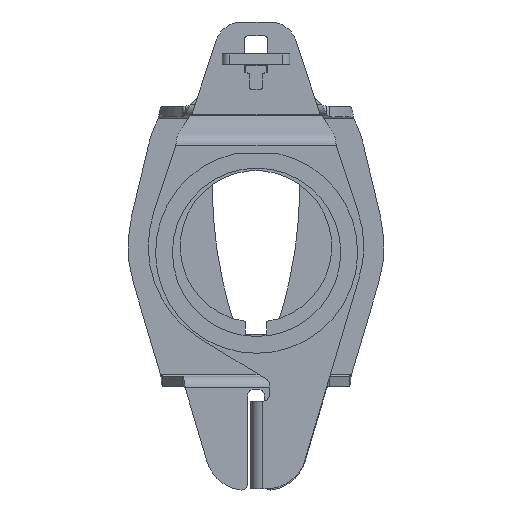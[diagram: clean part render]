
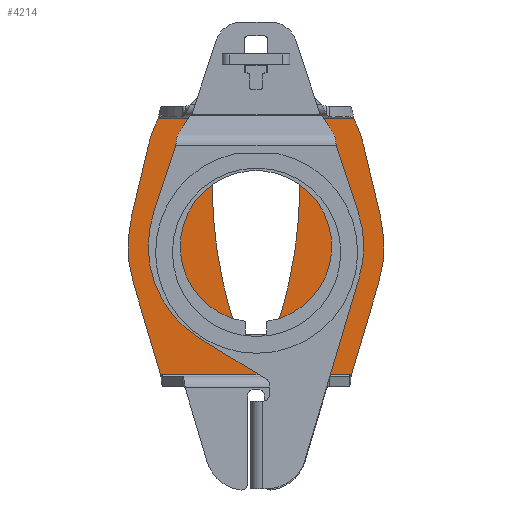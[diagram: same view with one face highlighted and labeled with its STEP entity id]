
A CAD part, front view. The second image highlights one B-rep face of the part: STEP entity #4214.
In plain terms, the highlighted planar face has unit normal (0, -1, 0) as drawn and (0, 1, 0) by its records, which use the part's own axes.
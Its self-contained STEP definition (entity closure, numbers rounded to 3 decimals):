
#2501=DIRECTION('',(1.,0.,0.));
#2502=VECTOR('',#2501,29.067);
#2503=CARTESIAN_POINT('',(-14.534,1.5,-19.));
#2504=LINE('',#2503,#2502);
#2505=CARTESIAN_POINT('',(-3.461,1.5,-10.271));
#2506=DIRECTION('',(0.,-1.,0.));
#2507=DIRECTION('',(0.9,0.,-0.436));
#2508=AXIS2_PLACEMENT_3D('',#2505,#2506,#2507);
#2510=DIRECTION('',(0.231,0.,0.973));
#2511=VECTOR('',#2510,10.793);
#2512=CARTESIAN_POINT('',(16.,1.5,-14.882));
#2513=LINE('',#2512,#2511);
#2514=CARTESIAN_POINT('',(0.,1.5,0.));
#2515=DIRECTION('',(0.,-1.,0.));
#2516=DIRECTION('',(0.973,0.,-0.231));
#2517=AXIS2_PLACEMENT_3D('',#2514,#2515,#2516);
#2519=DIRECTION('',(-0.285,0.,0.959));
#2520=VECTOR('',#2519,14.174);
#2521=CARTESIAN_POINT('',(18.212,1.5,5.413));
#2522=LINE('',#2521,#2520);
#2523=DIRECTION('',(1.,0.,0.));
#2524=VECTOR('',#2523,28.348);
#2525=CARTESIAN_POINT('',(-14.174,1.5,19.));
#2526=LINE('',#2525,#2524);
#2527=DIRECTION('',(-0.285,0.,-0.959));
#2528=VECTOR('',#2527,14.174);
#2529=CARTESIAN_POINT('',(-14.174,1.5,19.));
#2530=LINE('',#2529,#2528);
#2531=CARTESIAN_POINT('',(0.,1.5,0.));
#2532=DIRECTION('',(0.,-1.,0.));
#2533=DIRECTION('',(-0.959,0.,0.285));
#2534=AXIS2_PLACEMENT_3D('',#2531,#2532,#2533);
#2536=DIRECTION('',(0.231,0.,-0.973));
#2537=VECTOR('',#2536,10.793);
#2538=CARTESIAN_POINT('',(-18.488,1.5,-4.38));
#2539=LINE('',#2538,#2537);
#2540=CARTESIAN_POINT('',(3.461,1.5,-10.271));
#2541=DIRECTION('',(0.,-1.,0.));
#2542=DIRECTION('',(-0.973,0.,-0.231));
#2543=AXIS2_PLACEMENT_3D('',#2540,#2541,#2542);
#2545=DIRECTION('',(0.,0.,1.));
#2546=VECTOR('',#2545,4.262);
#2547=CARTESIAN_POINT('',(6.5,1.5,-13.354));
#2548=LINE('',#2547,#2546);
#2549=CARTESIAN_POINT('',(0.,1.5,-0.371));
#2550=DIRECTION('',(0.,-1.,0.));
#2551=DIRECTION('',(-0.39,0.,-0.921));
#2552=AXIS2_PLACEMENT_3D('',#2549,#2550,#2551);
#2554=DIRECTION('',(0.,0.,-1.));
#2555=VECTOR('',#2554,4.262);
#2556=CARTESIAN_POINT('',(-6.5,1.5,-9.092));
#2557=LINE('',#2556,#2555);
#2558=CARTESIAN_POINT('',(61.453,1.5,-9.522));
#2559=DIRECTION('',(0.,-1.,0.));
#2560=DIRECTION('',(-0.951,0.,0.309));
#2561=AXIS2_PLACEMENT_3D('',#2558,#2559,#2560);
#2563=CARTESIAN_POINT('',(0.,1.5,10.44));
#2564=DIRECTION('',(0.,-1.,0.));
#2565=DIRECTION('',(0.951,0.,0.309));
#2566=AXIS2_PLACEMENT_3D('',#2563,#2564,#2565);
#2568=CARTESIAN_POINT('',(-61.453,1.5,-9.522));
#2569=DIRECTION('',(0.,-1.,0.));
#2570=DIRECTION('',(0.977,0.,0.215));
#2571=AXIS2_PLACEMENT_3D('',#2568,#2569,#2570);
#2970=CARTESIAN_POINT('',(5.5,1.5,-13.354));
#2971=DIRECTION('',(0.,-1.,0.));
#2972=DIRECTION('',(0.39,0.,-0.921));
#2973=AXIS2_PLACEMENT_3D('',#2970,#2971,#2972);
#2988=CARTESIAN_POINT('',(-5.5,1.5,-13.354));
#2989=DIRECTION('',(0.,-1.,0.));
#2990=DIRECTION('',(-1.,0.,0.));
#2991=AXIS2_PLACEMENT_3D('',#2988,#2989,#2990);
#3006=CARTESIAN_POINT('',(59.5,1.5,-9.092));
#3007=DIRECTION('',(0.,-1.,0.));
#3008=DIRECTION('',(-0.977,0.,0.215));
#3009=AXIS2_PLACEMENT_3D('',#3006,#3007,#3008);
#3032=CARTESIAN_POINT('',(-59.5,1.5,-9.092));
#3033=DIRECTION('',(0.,-1.,0.));
#3034=DIRECTION('',(1.,0.,0.));
#3035=AXIS2_PLACEMENT_3D('',#3032,#3033,#3034);
#3045=CARTESIAN_POINT('',(-18.212,1.5,5.413));
#3046=CARTESIAN_POINT('',(-18.488,1.5,-4.38));
#3047=VERTEX_POINT('',#3045);
#3048=VERTEX_POINT('',#3046);
#3049=CARTESIAN_POINT('',(18.488,1.5,-4.38));
#3050=CARTESIAN_POINT('',(18.212,1.5,5.413));
#3051=VERTEX_POINT('',#3049);
#3052=VERTEX_POINT('',#3050);
#3057=CARTESIAN_POINT('',(-14.174,1.5,19.));
#3058=VERTEX_POINT('',#3057);
#3059=CARTESIAN_POINT('',(14.174,1.5,19.));
#3060=VERTEX_POINT('',#3059);
#3089=CARTESIAN_POINT('',(3.22,1.5,11.486));
#3090=CARTESIAN_POINT('',(-3.22,1.5,11.486));
#3091=VERTEX_POINT('',#3089);
#3092=VERTEX_POINT('',#3090);
#3094=CARTESIAN_POINT('',(-6.5,1.5,-9.092));
#3096=VERTEX_POINT('',#3094);
#3098=CARTESIAN_POINT('',(-4.956,1.5,5.099));
#3100=VERTEX_POINT('',#3098);
#3102=CARTESIAN_POINT('',(4.956,1.5,5.099));
#3104=VERTEX_POINT('',#3102);
#3106=CARTESIAN_POINT('',(6.5,1.5,-9.092));
#3108=VERTEX_POINT('',#3106);
#3110=CARTESIAN_POINT('',(-5.89,1.5,-14.274));
#3112=VERTEX_POINT('',#3110);
#3114=CARTESIAN_POINT('',(-6.5,1.5,-13.354));
#3116=VERTEX_POINT('',#3114);
#3118=CARTESIAN_POINT('',(6.5,1.5,-13.354));
#3120=VERTEX_POINT('',#3118);
#3122=CARTESIAN_POINT('',(5.89,1.5,-14.274));
#3124=VERTEX_POINT('',#3122);
#3129=CARTESIAN_POINT('',(-14.534,1.5,-19.));
#3130=CARTESIAN_POINT('',(14.534,1.5,-19.));
#3131=VERTEX_POINT('',#3129);
#3132=VERTEX_POINT('',#3130);
#3273=CARTESIAN_POINT('',(-16.,1.5,-14.882));
#3274=VERTEX_POINT('',#3273);
#3275=CARTESIAN_POINT('',(16.,1.5,-14.882));
#3276=VERTEX_POINT('',#3275);
#4170=CARTESIAN_POINT('',(0.,1.5,0.));
#4171=DIRECTION('',(0.,-1.,0.));
#4172=DIRECTION('',(1.,0.,0.));
#4173=AXIS2_PLACEMENT_3D('',#4170,#4171,#4172);
#4174=PLANE('',#4173);
#4176=ORIENTED_EDGE('',*,*,#4175,.T.);
#4177=ORIENTED_EDGE('',*,*,#3621,.T.);
#4178=ORIENTED_EDGE('',*,*,#3634,.T.);
#4179=ORIENTED_EDGE('',*,*,#3648,.T.);
#4180=ORIENTED_EDGE('',*,*,#3661,.T.);
#4181=ORIENTED_EDGE('',*,*,#4164,.F.);
#4183=ORIENTED_EDGE('',*,*,#4182,.T.);
#4185=ORIENTED_EDGE('',*,*,#4184,.T.);
#4187=ORIENTED_EDGE('',*,*,#4186,.T.);
#4189=ORIENTED_EDGE('',*,*,#4188,.T.);
#4190=EDGE_LOOP('',(#4176,#4177,#4178,#4179,#4180,#4181,#4183,#4185,#4187,
#4189));
#4191=FACE_OUTER_BOUND('',#4190,.F.);
#4193=ORIENTED_EDGE('',*,*,#4192,.F.);
#4195=ORIENTED_EDGE('',*,*,#4194,.F.);
#4197=ORIENTED_EDGE('',*,*,#4196,.F.);
#4199=ORIENTED_EDGE('',*,*,#4198,.F.);
#4201=ORIENTED_EDGE('',*,*,#4200,.F.);
#4203=ORIENTED_EDGE('',*,*,#4202,.F.);
#4205=ORIENTED_EDGE('',*,*,#4204,.F.);
#4207=ORIENTED_EDGE('',*,*,#4206,.F.);
#4209=ORIENTED_EDGE('',*,*,#4208,.F.);
#4211=ORIENTED_EDGE('',*,*,#4210,.F.);
#4212=EDGE_LOOP('',(#4193,#4195,#4197,#4199,#4201,#4203,#4205,#4207,#4209,
#4211));
#4213=FACE_BOUND('',#4212,.F.);
#4214=ADVANCED_FACE('',(#4191,#4213),#4174,.F.);
#2509=CIRCLE('',#2508,20.);
#2518=CIRCLE('',#2517,19.);
#2535=CIRCLE('',#2534,19.);
#2544=CIRCLE('',#2543,20.);
#2553=CIRCLE('',#2552,15.1);
#2562=CIRCLE('',#2561,68.);
#2567=CIRCLE('',#2566,3.386);
#2572=CIRCLE('',#2571,68.);
#2974=CIRCLE('',#2973,1.);
#2992=CIRCLE('',#2991,1.);
#3010=CIRCLE('',#3009,66.);
#3036=CIRCLE('',#3035,66.);
#3621=EDGE_CURVE('',#3132,#3276,#2509,.T.);
#3634=EDGE_CURVE('',#3276,#3051,#2513,.T.);
#3648=EDGE_CURVE('',#3051,#3052,#2518,.T.);
#3661=EDGE_CURVE('',#3052,#3060,#2522,.T.);
#4164=EDGE_CURVE('',#3058,#3060,#2526,.T.);
#4175=EDGE_CURVE('',#3131,#3132,#2504,.T.);
#4182=EDGE_CURVE('',#3058,#3047,#2530,.T.);
#4184=EDGE_CURVE('',#3047,#3048,#2535,.T.);
#4186=EDGE_CURVE('',#3048,#3274,#2539,.T.);
#4188=EDGE_CURVE('',#3274,#3131,#2544,.T.);
#4192=EDGE_CURVE('',#3120,#3108,#2548,.T.);
#4194=EDGE_CURVE('',#3124,#3120,#2974,.T.);
#4196=EDGE_CURVE('',#3112,#3124,#2553,.T.);
#4198=EDGE_CURVE('',#3116,#3112,#2992,.T.);
#4200=EDGE_CURVE('',#3096,#3116,#2557,.T.);
#4202=EDGE_CURVE('',#3100,#3096,#3010,.T.);
#4204=EDGE_CURVE('',#3092,#3100,#2562,.T.);
#4206=EDGE_CURVE('',#3091,#3092,#2567,.T.);
#4208=EDGE_CURVE('',#3104,#3091,#2572,.T.);
#4210=EDGE_CURVE('',#3108,#3104,#3036,.T.);
